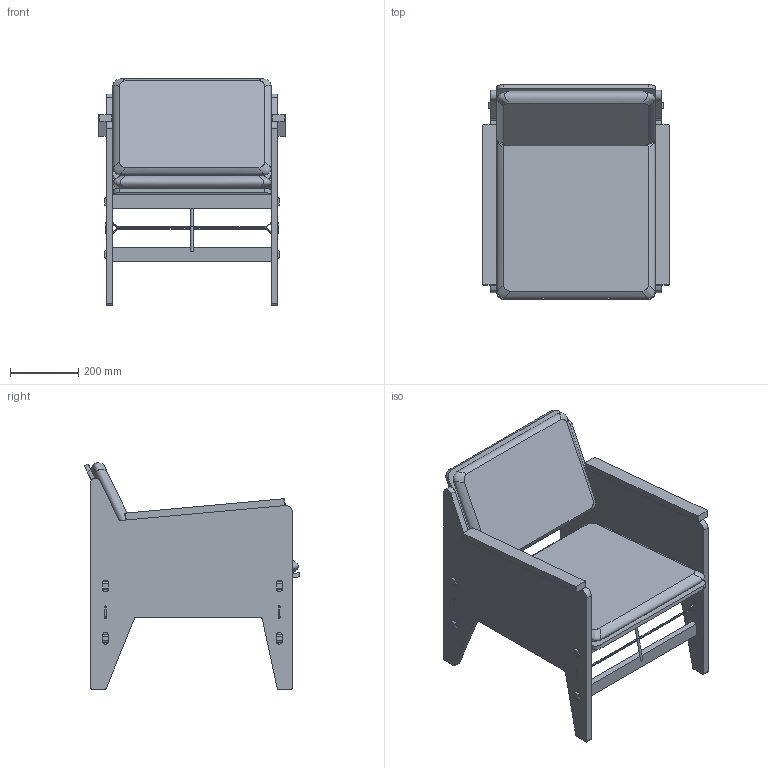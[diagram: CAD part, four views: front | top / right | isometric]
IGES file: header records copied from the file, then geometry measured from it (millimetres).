
Start section: Data from Parasolid IGES Translator 17.0.49, Copyright(c) 2006 Siemens P LM Software. All Rights Reserved.
Global section: file name: Floris.igs; native system: By Siemens PLM Incorporated; preprocessor: XPlus GENERIC/IGES 17.0.49; author: Noname; organization: Noname; date: 20170605.155331; units: metre
Bounding box: 546 x 629.47 x 663.05 mm (x, y, z)
Volume: 28360931.6 mm3; surface area: 2958885.2 mm2
Topology: 16 solids, 16 shells, 270 faces, 690 edges, 448 vertices
Faces by surface type: plane 134, cylinder 90, bspline 22, torus 16, extrusion 8
Full cylindrical faces by diameter (mm): 3 x14, 6 x8, 7.03 x2
